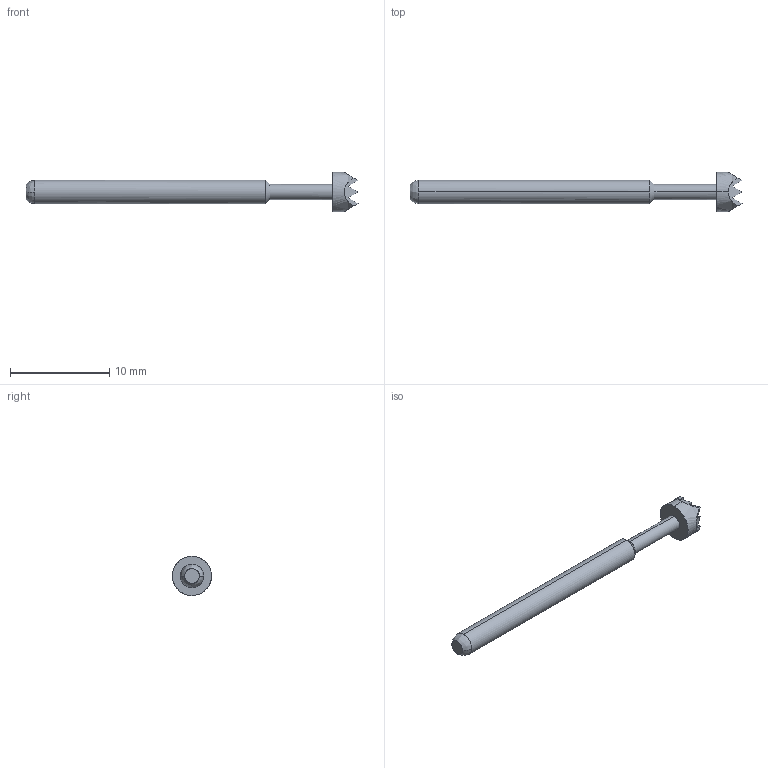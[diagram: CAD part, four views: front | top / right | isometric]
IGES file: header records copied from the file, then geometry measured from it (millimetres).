
Start section: SolidWorks IGES file using analytic representation for surfaces
Global section: file name: \\CODA-VM-SBS\RedirectedFolders\georged\My Documents\CODA CAD FILES\GENERAL PURPOSE TEST PROBES\MEDIUM REACH TEST PROBES\PA6 SERIES\PA6H.IGS; native system: SolidWorks 2024; preprocessor: SolidWorks 2024; author: GeorgeD; date: 250331.140021; units: millimetre
Bounding box: 33.53 x 3.96 x 3.96 mm (x, y, z)
Surface area: 269.2 mm2 (no closed solid volume)
Topology: 0 solids, 0 shells, 40 faces, 267 edges, 267 vertices
Faces by surface type: bspline 40
